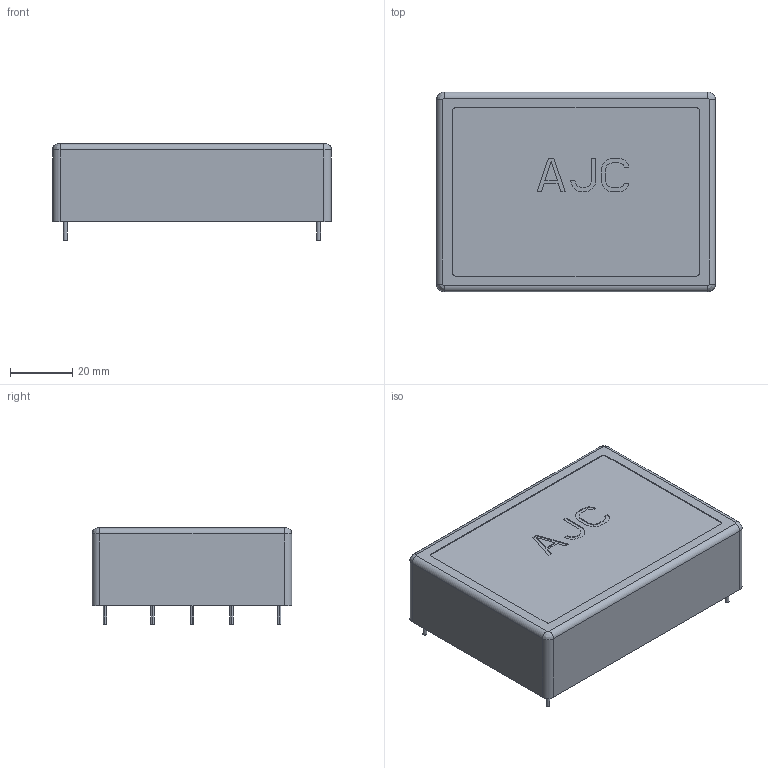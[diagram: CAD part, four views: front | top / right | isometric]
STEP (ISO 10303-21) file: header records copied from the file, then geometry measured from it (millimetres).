
FILE_DESCRIPTION((''),'2;1');
FILE_NAME('AJC','2016-02-02T',('arch'),(''),'PRO/ENGINEER BY PARAMETRIC TECHNOLOGY CORPORATION, 2008380','PRO/ENGINEER BY PARAMETRIC TECHNOLOGY CORPORATION, 2008380','');
FILE_SCHEMA(('AUTOMOTIVE_DESIGN { 1 2 10303 214 0 1 1 1 }'));
Length unit declared in the file: millimetre
Products named in the file (1): AJC
Bounding box: 89.5 x 64.1 x 31 mm (x, y, z)
Volume: 141771.2 mm3; surface area: 19054.1 mm2
Topology: 1 solids, 1 shells, 127 faces, 331 edges, 218 vertices
Faces by surface type: plane 97, cylinder 26, bspline 4
Entity records: 3979 total; most frequent: CARTESIAN_POINT 737, ORIENTED_EDGE 662, DIRECTION 633, EDGE_CURVE 331, VECTOR 275, LINE 275, VERTEX_POINT 218, AXIS2_PLACEMENT_3D 179
